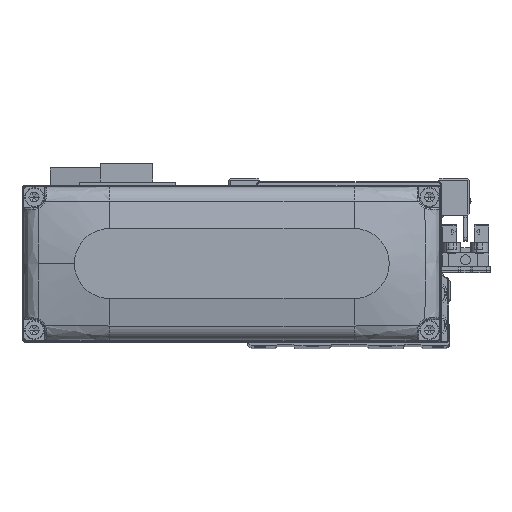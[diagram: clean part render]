
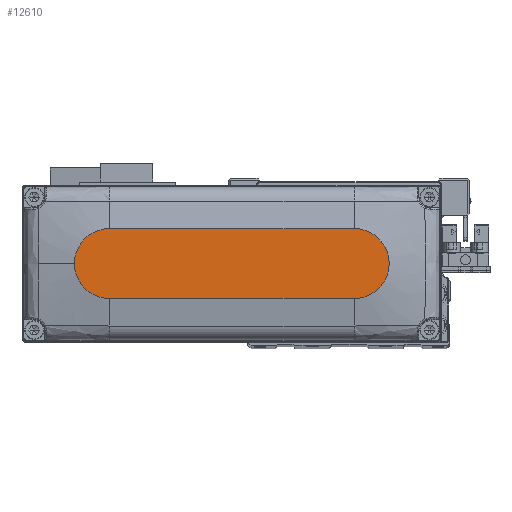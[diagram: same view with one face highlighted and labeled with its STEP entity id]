
A CAD part, top view. The second image highlights one B-rep face of the part: STEP entity #12610.
In plain terms, the highlighted planar face has unit normal (0, 0, 1).
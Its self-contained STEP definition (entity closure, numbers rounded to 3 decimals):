
#122 = CARTESIAN_POINT ( 'NONE',  ( 35., -10., 28. ) ) ;
#315 = VERTEX_POINT ( 'NONE', #12769 ) ;
#370 = VERTEX_POINT ( 'NONE', #10271 ) ;
#1162 = ORIENTED_EDGE ( 'NONE', *, *, #11096, .T. ) ;
#2439 = CIRCLE ( 'NONE', #23776, 10. ) ;
#2581 = DIRECTION ( 'NONE',  ( 1., 0., 0. ) ) ;
#2792 = AXIS2_PLACEMENT_3D ( 'NONE', #21822, #33446, #7330 ) ;
#5324 = AXIS2_PLACEMENT_3D ( 'NONE', #11392, #23030, #34662 ) ;
#7204 = DIRECTION ( 'NONE',  ( -1., 0., 0. ) ) ;
#7330 = DIRECTION ( 'NONE',  ( 1., 0., 0. ) ) ;
#7469 = CARTESIAN_POINT ( 'NONE',  ( 35., 0., 28. ) ) ;
#7738 = AXIS2_PLACEMENT_3D ( 'NONE', #7469, #19096, #30739 ) ;
#8147 = VECTOR ( 'NONE', #7204, 1000. ) ;
#10183 = PLANE ( 'NONE',  #2792 ) ;
#10271 = CARTESIAN_POINT ( 'NONE',  ( -35., -10., 28. ) ) ;
#11096 = EDGE_CURVE ( 'NONE', #370, #37658, #17059, .T. ) ;
#11231 = DIRECTION ( 'NONE',  ( 1., 0., 0. ) ) ;
#11392 = CARTESIAN_POINT ( 'NONE',  ( -35., 0., 28. ) ) ;
#12610 = ADVANCED_FACE ( 'NONE', ( #36309 ), #10183, .T. ) ;
#12769 = CARTESIAN_POINT ( 'NONE',  ( -35., 10., 28. ) ) ;
#13911 = CARTESIAN_POINT ( 'NONE',  ( 45., 0., 28. ) ) ;
#14160 = EDGE_CURVE ( 'NONE', #315, #370, #21765, .T. ) ;
#14512 = ORIENTED_EDGE ( 'NONE', *, *, #19452, .T. ) ;
#15393 = CARTESIAN_POINT ( 'NONE',  ( 35., 10., 28. ) ) ;
#15444 = EDGE_CURVE ( 'NONE', #24707, #33559, #24204, .T. ) ;
#17059 = LINE ( 'NONE', #28707, #31334 ) ;
#19096 = DIRECTION ( 'NONE',  ( 0., 0., 1. ) ) ;
#19452 = EDGE_CURVE ( 'NONE', #33559, #315, #21692, .T. ) ;
#19943 = ORIENTED_EDGE ( 'NONE', *, *, #14160, .T. ) ;
#21692 = LINE ( 'NONE', #33319, #8147 ) ;
#21765 = CIRCLE ( 'NONE', #5324, 10. ) ;
#21822 = CARTESIAN_POINT ( 'NONE',  ( 0., 0., 28. ) ) ;
#23030 = DIRECTION ( 'NONE',  ( 0., 0., 1. ) ) ;
#23776 = AXIS2_PLACEMENT_3D ( 'NONE', #25725, #37334, #11231 ) ;
#24204 = CIRCLE ( 'NONE', #7738, 10. ) ;
#24503 = ORIENTED_EDGE ( 'NONE', *, *, #15444, .T. ) ;
#24707 = VERTEX_POINT ( 'NONE', #13911 ) ;
#25725 = CARTESIAN_POINT ( 'NONE',  ( 35., 0., 28. ) ) ;
#28707 = CARTESIAN_POINT ( 'NONE',  ( -35., -10., 28. ) ) ;
#30739 = DIRECTION ( 'NONE',  ( 1., 0., 0. ) ) ;
#30882 = EDGE_LOOP ( 'NONE', ( #14512, #19943, #1162, #34092, #24503 ) ) ;
#31334 = VECTOR ( 'NONE', #2581, 1000. ) ;
#33319 = CARTESIAN_POINT ( 'NONE',  ( -35., 10., 28. ) ) ;
#33446 = DIRECTION ( 'NONE',  ( 0., 0., 1. ) ) ;
#33559 = VERTEX_POINT ( 'NONE', #15393 ) ;
#34092 = ORIENTED_EDGE ( 'NONE', *, *, #34650, .T. ) ;
#34650 = EDGE_CURVE ( 'NONE', #37658, #24707, #2439, .T. ) ;
#34662 = DIRECTION ( 'NONE',  ( 1., 0., 0. ) ) ;
#36309 = FACE_OUTER_BOUND ( 'NONE', #30882, .T. ) ;
#37334 = DIRECTION ( 'NONE',  ( 0., 0., 1. ) ) ;
#37658 = VERTEX_POINT ( 'NONE', #122 ) ;
